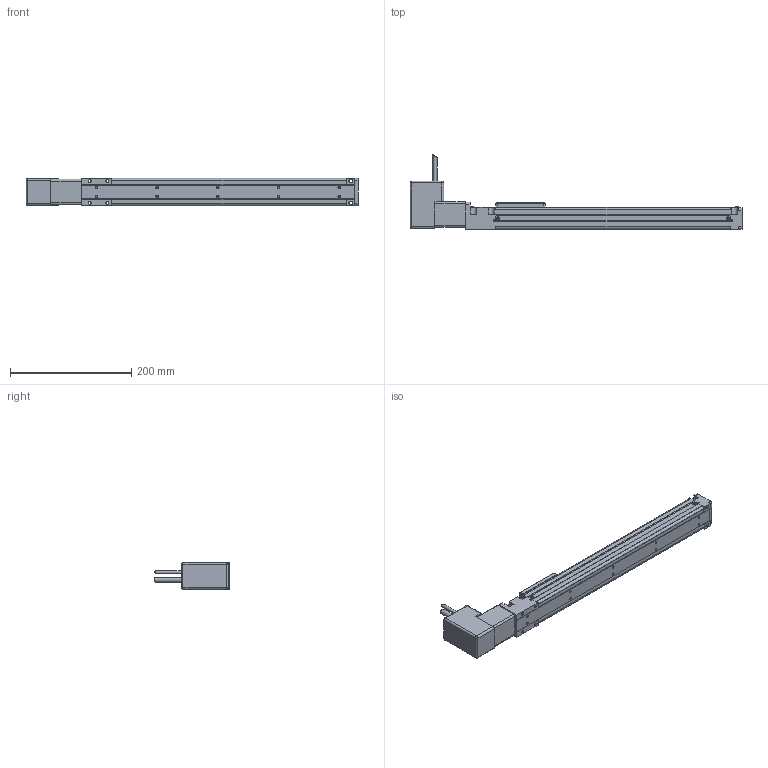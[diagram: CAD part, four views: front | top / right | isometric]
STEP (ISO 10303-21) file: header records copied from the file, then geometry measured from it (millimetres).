
FILE_DESCRIPTION(/* description */ ('Alibre Inc.'),/* implementation_level */ '2;1');
FILE_NAME(/* name */ 'export0',/* time_stamp */ '2010-03-31T14:58:36-04:00',/* author */ (''),/* organization */ (''),/* preprocessor_version */ 'ST-DEVELOPER v10',/* originating_system */ 'Alibre',/* authorisation */ '');
FILE_SCHEMA (('CONFIG_CONTROL_DESIGN'));
Length unit declared in the file: millimetre
Products named in the file (4): 1; 2; ID_1
Bounding box: 547 x 124.17 x 45 mm (x, y, z)
Volume: 496592.7 mm3; surface area: 206390.4 mm2
Topology: 3 solids, 3 shells, 709 faces, 1843 edges, 1140 vertices
Faces by surface type: plane 430, cylinder 159, cone 106, torus 8, sphere 6
Full cylindrical faces by diameter (mm): 2.459 x3, 2.5 x1, 5 x1, 5.6 x1, 8.5 x1, 22 x1
Entity records: 21214 total; most frequent: CARTESIAN_POINT 3806, ORIENTED_EDGE 3596, DIRECTION 3193, EDGE_CURVE 1798, VECTOR 1341, LINE 1341, AXIS2_PLACEMENT_3D 1144, VERTEX_POINT 1137
